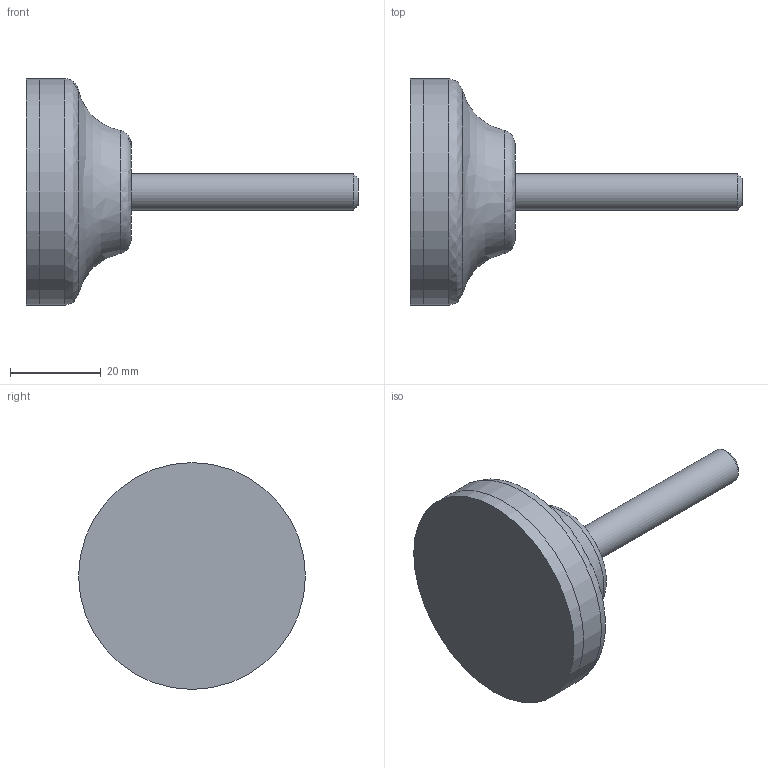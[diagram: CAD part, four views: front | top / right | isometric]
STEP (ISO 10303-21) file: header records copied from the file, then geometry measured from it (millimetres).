
FILE_DESCRIPTION(('STEP AP203'),'2;1');
FILE_NAME('9151.stp','2014-03-10T14:54:53',(''),(''),'2008.1.107','THINKDESIGN','');
FILE_SCHEMA(('CONFIG_CONTROL_DESIGN'));
Length unit declared in the file: millimetre
Bounding box: 73.2 x 50 x 50 mm (x, y, z)
Volume: 33801.2 mm3; surface area: 11466.8 mm2
Topology: 3 solids, 3 shells, 26 faces, 57 edges, 38 vertices
Faces by surface type: plane 13, bspline 10, cylinder 3
Full cylindrical faces by diameter (mm): 8 x1, 50 x2
Entity records: 1031 total; most frequent: CARTESIAN_POINT 372, ORIENTED_EDGE 114, DIRECTION 112, EDGE_CURVE 57, AXIS2_PLACEMENT_3D 39, VERTEX_POINT 38, VECTOR 34, LINE 34
